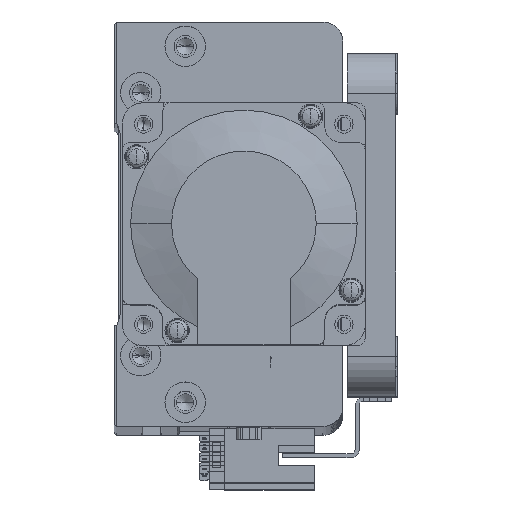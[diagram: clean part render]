
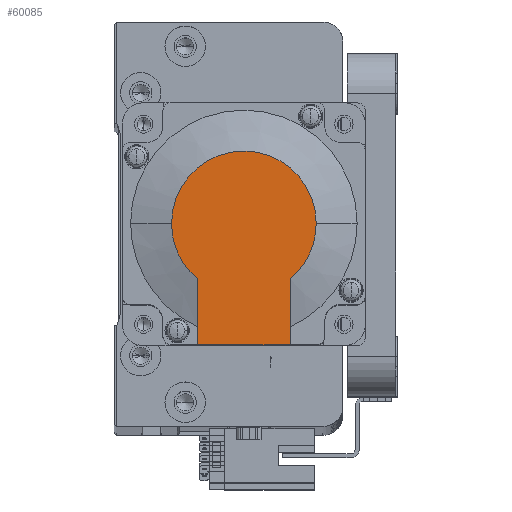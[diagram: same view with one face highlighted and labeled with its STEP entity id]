
A CAD part, top view. The second image highlights one B-rep face of the part: STEP entity #60085.
In plain terms, the highlighted planar face has unit normal (0, 0, 1) as drawn and (-1, 0, 0) by its records, which use the part's own axes.
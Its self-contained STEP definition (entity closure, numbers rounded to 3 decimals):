
#944 = VERTEX_POINT ( 'NONE', #26028 ) ;
#1591 = ORIENTED_EDGE ( 'NONE', *, *, #48742, .F. ) ;
#2524 = DIRECTION ( 'NONE',  ( -1., 0., 0. ) ) ;
#5141 = CARTESIAN_POINT ( 'NONE',  ( -118.5, 0., 11.45 ) ) ;
#5664 = CARTESIAN_POINT ( 'NONE',  ( -118.5, 13.735, -11.45 ) ) ;
#8982 = ORIENTED_EDGE ( 'NONE', *, *, #25926, .T. ) ;
#9530 = CARTESIAN_POINT ( 'NONE',  ( -118.5, -8.941, 0. ) ) ;
#11026 = CARTESIAN_POINT ( 'NONE',  ( -118.5, 0., 0. ) ) ;
#12347 = AXIS2_PLACEMENT_3D ( 'NONE', #30301, #2524, #35059 ) ;
#14139 = CARTESIAN_POINT ( 'NONE',  ( -118.5, -8.941, -11.45 ) ) ;
#14192 = DIRECTION ( 'NONE',  ( 0., 0., 1. ) ) ;
#14414 = ORIENTED_EDGE ( 'NONE', *, *, #42893, .T. ) ;
#15114 = VECTOR ( 'NONE', #25422, 1000. ) ;
#15669 = DIRECTION ( 'NONE',  ( 0., 0., -1. ) ) ;
#16430 = ORIENTED_EDGE ( 'NONE', *, *, #55812, .F. ) ;
#17406 = CIRCLE ( 'NONE', #35975, 17.881 ) ;
#18515 = DIRECTION ( 'NONE',  ( 0., -1., 0. ) ) ;
#20709 = CARTESIAN_POINT ( 'NONE',  ( -118.5, 30., 25. ) ) ;
#20792 = CIRCLE ( 'NONE', #12347, 17.881 ) ;
#21024 = VERTEX_POINT ( 'NONE', #55485 ) ;
#21600 = CARTESIAN_POINT ( 'NONE',  ( -118.5, 0., -17.881 ) ) ;
#22458 = DIRECTION ( 'NONE',  ( 0., -1., 0. ) ) ;
#22654 = AXIS2_PLACEMENT_3D ( 'NONE', #9530, #42121, #14192 ) ;
#23345 = PLANE ( 'NONE',  #22654 ) ;
#23743 = VERTEX_POINT ( 'NONE', #32628 ) ;
#25422 = DIRECTION ( 'NONE',  ( 0., 0., 1. ) ) ;
#25926 = EDGE_CURVE ( 'NONE', #28109, #32033, #17406, .T. ) ;
#26028 = CARTESIAN_POINT ( 'NONE',  ( -118.5, 0., 17.881 ) ) ;
#26688 = DIRECTION ( 'NONE',  ( -1., 0., 0. ) ) ;
#27876 = FACE_OUTER_BOUND ( 'NONE', #46917, .T. ) ;
#28109 = VERTEX_POINT ( 'NONE', #5664 ) ;
#28138 = VECTOR ( 'NONE', #18515, 1000. ) ;
#29583 = LINE ( 'NONE', #5141, #28138 ) ;
#30301 = CARTESIAN_POINT ( 'NONE',  ( -118.5, 0., 0. ) ) ;
#30712 = CIRCLE ( 'NONE', #38264, 17.881 ) ;
#31467 = ORIENTED_EDGE ( 'NONE', *, *, #44431, .T. ) ;
#32033 = VERTEX_POINT ( 'NONE', #21600 ) ;
#32628 = CARTESIAN_POINT ( 'NONE',  ( -118.5, 13.735, 11.45 ) ) ;
#35059 = DIRECTION ( 'NONE',  ( 0., 0., -1. ) ) ;
#35326 = VECTOR ( 'NONE', #22458, 1000. ) ;
#35975 = AXIS2_PLACEMENT_3D ( 'NONE', #11026, #43622, #15669 ) ;
#38264 = AXIS2_PLACEMENT_3D ( 'NONE', #54634, #26688, #59296 ) ;
#42121 = DIRECTION ( 'NONE',  ( -1., 0., 0. ) ) ;
#42893 = EDGE_CURVE ( 'NONE', #32033, #944, #20792, .T. ) ;
#43622 = DIRECTION ( 'NONE',  ( -1., 0., 0. ) ) ;
#44431 = EDGE_CURVE ( 'NONE', #944, #23743, #30712, .T. ) ;
#46298 = LINE ( 'NONE', #14139, #35326 ) ;
#46713 = CARTESIAN_POINT ( 'NONE',  ( -118.5, 30., 11.45 ) ) ;
#46917 = EDGE_LOOP ( 'NONE', ( #57547, #8982, #14414, #31467, #1591, #16430 ) ) ;
#48742 = EDGE_CURVE ( 'NONE', #58749, #23743, #29583, .T. ) ;
#52362 = LINE ( 'NONE', #20709, #15114 ) ;
#54634 = CARTESIAN_POINT ( 'NONE',  ( -118.5, 0., 0. ) ) ;
#55485 = CARTESIAN_POINT ( 'NONE',  ( -118.5, 30., -11.45 ) ) ;
#55812 = EDGE_CURVE ( 'NONE', #21024, #58749, #52362, .T. ) ;
#56631 = EDGE_CURVE ( 'NONE', #21024, #28109, #46298, .T. ) ;
#57547 = ORIENTED_EDGE ( 'NONE', *, *, #56631, .T. ) ;
#58749 = VERTEX_POINT ( 'NONE', #46713 ) ;
#59296 = DIRECTION ( 'NONE',  ( 0., 0., -1. ) ) ;
#60085 = ADVANCED_FACE ( 'NONE', ( #27876 ), #23345, .T. ) ;
